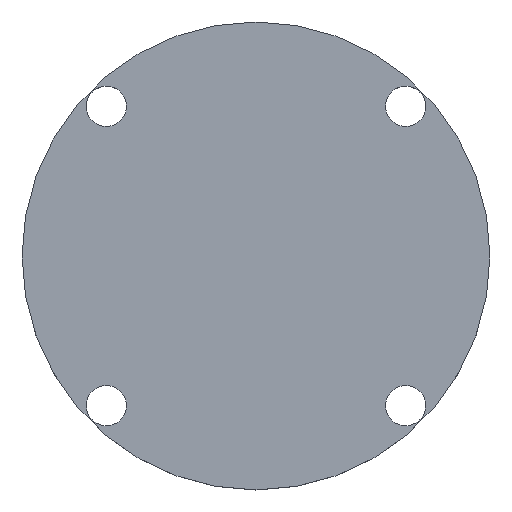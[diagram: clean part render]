
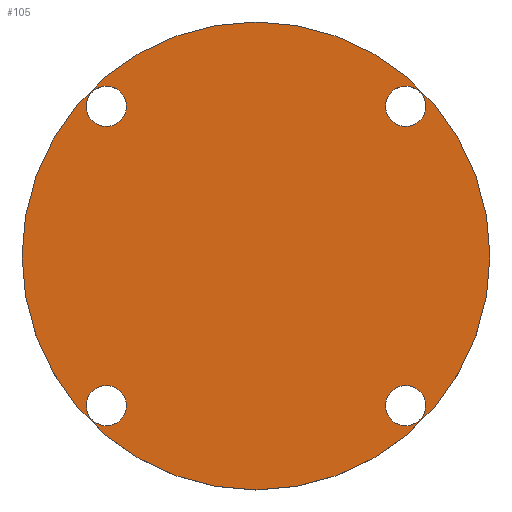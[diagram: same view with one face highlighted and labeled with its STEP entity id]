
A CAD part, top view. The second image highlights one B-rep face of the part: STEP entity #105.
In plain terms, the highlighted planar face has unit normal (0, 0, 1).
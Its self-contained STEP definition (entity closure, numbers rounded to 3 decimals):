
#21 = EDGE_CURVE('',#22,#22,#24,.T.);
#22 = VERTEX_POINT('',#23);
#23 = CARTESIAN_POINT('',(52.5,0.,10.));
#24 = SURFACE_CURVE('',#25,(#30,#42),.PCURVE_S1.);
#25 = CIRCLE('',#26,52.5);
#26 = AXIS2_PLACEMENT_3D('',#27,#28,#29);
#27 = CARTESIAN_POINT('',(0.,0.,10.));
#28 = DIRECTION('',(0.,0.,1.));
#29 = DIRECTION('',(1.,0.,-0.));
#30 = PCURVE('',#31,#36);
#31 = CYLINDRICAL_SURFACE('',#32,52.5);
#32 = AXIS2_PLACEMENT_3D('',#33,#34,#35);
#33 = CARTESIAN_POINT('',(0.,0.,0.));
#34 = DIRECTION('',(0.,0.,1.));
#35 = DIRECTION('',(1.,0.,-0.));
#36 = DEFINITIONAL_REPRESENTATION('',(#37),#41);
#37 = LINE('',#38,#39);
#38 = CARTESIAN_POINT('',(0.,10.));
#39 = VECTOR('',#40,1.);
#40 = DIRECTION('',(1.,0.));
#41 = ( GEOMETRIC_REPRESENTATION_CONTEXT(2) 
PARAMETRIC_REPRESENTATION_CONTEXT() REPRESENTATION_CONTEXT('2D SPACE',''
  ) );
#42 = PCURVE('',#43,#48);
#43 = PLANE('',#44);
#44 = AXIS2_PLACEMENT_3D('',#45,#46,#47);
#45 = CARTESIAN_POINT('',(0.,0.,10.));
#46 = DIRECTION('',(0.,0.,1.));
#47 = DIRECTION('',(1.,0.,-0.));
#48 = DEFINITIONAL_REPRESENTATION('',(#49),#53);
#49 = CIRCLE('',#50,52.5);
#50 = AXIS2_PLACEMENT_2D('',#51,#52);
#51 = CARTESIAN_POINT('',(0.,0.));
#52 = DIRECTION('',(1.,0.));
#53 = ( GEOMETRIC_REPRESENTATION_CONTEXT(2) 
PARAMETRIC_REPRESENTATION_CONTEXT() REPRESENTATION_CONTEXT('2D SPACE',''
  ) );
#105 = ADVANCED_FACE('',(#106,#109,#140,#171,#202),#43,.T.);
#106 = FACE_BOUND('',#107,.T.);
#107 = EDGE_LOOP('',(#108));
#108 = ORIENTED_EDGE('',*,*,#21,.T.);
#109 = FACE_BOUND('',#110,.T.);
#110 = EDGE_LOOP('',(#111));
#111 = ORIENTED_EDGE('',*,*,#112,.F.);
#112 = EDGE_CURVE('',#113,#113,#115,.T.);
#113 = VERTEX_POINT('',#114);
#114 = CARTESIAN_POINT('',(-29.088,-33.588,10.));
#115 = SURFACE_CURVE('',#116,(#121,#128),.PCURVE_S1.);
#116 = CIRCLE('',#117,4.5);
#117 = AXIS2_PLACEMENT_3D('',#118,#119,#120);
#118 = CARTESIAN_POINT('',(-33.588,-33.588,10.));
#119 = DIRECTION('',(0.,0.,1.));
#120 = DIRECTION('',(1.,0.,-0.));
#121 = PCURVE('',#43,#122);
#122 = DEFINITIONAL_REPRESENTATION('',(#123),#127);
#123 = CIRCLE('',#124,4.5);
#124 = AXIS2_PLACEMENT_2D('',#125,#126);
#125 = CARTESIAN_POINT('',(-33.588,-33.588));
#126 = DIRECTION('',(1.,0.));
#127 = ( GEOMETRIC_REPRESENTATION_CONTEXT(2) 
PARAMETRIC_REPRESENTATION_CONTEXT() REPRESENTATION_CONTEXT('2D SPACE',''
  ) );
#128 = PCURVE('',#129,#134);
#129 = CYLINDRICAL_SURFACE('',#130,4.5);
#130 = AXIS2_PLACEMENT_3D('',#131,#132,#133);
#131 = CARTESIAN_POINT('',(-33.588,-33.588,-15.));
#132 = DIRECTION('',(0.,0.,1.));
#133 = DIRECTION('',(1.,0.,-0.));
#134 = DEFINITIONAL_REPRESENTATION('',(#135),#139);
#135 = LINE('',#136,#137);
#136 = CARTESIAN_POINT('',(0.,25.));
#137 = VECTOR('',#138,1.);
#138 = DIRECTION('',(1.,0.));
#139 = ( GEOMETRIC_REPRESENTATION_CONTEXT(2) 
PARAMETRIC_REPRESENTATION_CONTEXT() REPRESENTATION_CONTEXT('2D SPACE',''
  ) );
#140 = FACE_BOUND('',#141,.T.);
#141 = EDGE_LOOP('',(#142));
#142 = ORIENTED_EDGE('',*,*,#143,.F.);
#143 = EDGE_CURVE('',#144,#144,#146,.T.);
#144 = VERTEX_POINT('',#145);
#145 = CARTESIAN_POINT('',(38.088,-33.588,10.));
#146 = SURFACE_CURVE('',#147,(#152,#159),.PCURVE_S1.);
#147 = CIRCLE('',#148,4.5);
#148 = AXIS2_PLACEMENT_3D('',#149,#150,#151);
#149 = CARTESIAN_POINT('',(33.588,-33.588,10.));
#150 = DIRECTION('',(0.,0.,1.));
#151 = DIRECTION('',(1.,0.,-0.));
#152 = PCURVE('',#43,#153);
#153 = DEFINITIONAL_REPRESENTATION('',(#154),#158);
#154 = CIRCLE('',#155,4.5);
#155 = AXIS2_PLACEMENT_2D('',#156,#157);
#156 = CARTESIAN_POINT('',(33.588,-33.588));
#157 = DIRECTION('',(1.,0.));
#158 = ( GEOMETRIC_REPRESENTATION_CONTEXT(2) 
PARAMETRIC_REPRESENTATION_CONTEXT() REPRESENTATION_CONTEXT('2D SPACE',''
  ) );
#159 = PCURVE('',#160,#165);
#160 = CYLINDRICAL_SURFACE('',#161,4.5);
#161 = AXIS2_PLACEMENT_3D('',#162,#163,#164);
#162 = CARTESIAN_POINT('',(33.588,-33.588,-15.));
#163 = DIRECTION('',(0.,0.,1.));
#164 = DIRECTION('',(1.,0.,-0.));
#165 = DEFINITIONAL_REPRESENTATION('',(#166),#170);
#166 = LINE('',#167,#168);
#167 = CARTESIAN_POINT('',(0.,25.));
#168 = VECTOR('',#169,1.);
#169 = DIRECTION('',(1.,0.));
#170 = ( GEOMETRIC_REPRESENTATION_CONTEXT(2) 
PARAMETRIC_REPRESENTATION_CONTEXT() REPRESENTATION_CONTEXT('2D SPACE',''
  ) );
#171 = FACE_BOUND('',#172,.T.);
#172 = EDGE_LOOP('',(#173));
#173 = ORIENTED_EDGE('',*,*,#174,.F.);
#174 = EDGE_CURVE('',#175,#175,#177,.T.);
#175 = VERTEX_POINT('',#176);
#176 = CARTESIAN_POINT('',(-29.088,33.588,10.));
#177 = SURFACE_CURVE('',#178,(#183,#190),.PCURVE_S1.);
#178 = CIRCLE('',#179,4.5);
#179 = AXIS2_PLACEMENT_3D('',#180,#181,#182);
#180 = CARTESIAN_POINT('',(-33.588,33.588,10.));
#181 = DIRECTION('',(0.,0.,1.));
#182 = DIRECTION('',(1.,0.,-0.));
#183 = PCURVE('',#43,#184);
#184 = DEFINITIONAL_REPRESENTATION('',(#185),#189);
#185 = CIRCLE('',#186,4.5);
#186 = AXIS2_PLACEMENT_2D('',#187,#188);
#187 = CARTESIAN_POINT('',(-33.588,33.588));
#188 = DIRECTION('',(1.,0.));
#189 = ( GEOMETRIC_REPRESENTATION_CONTEXT(2) 
PARAMETRIC_REPRESENTATION_CONTEXT() REPRESENTATION_CONTEXT('2D SPACE',''
  ) );
#190 = PCURVE('',#191,#196);
#191 = CYLINDRICAL_SURFACE('',#192,4.5);
#192 = AXIS2_PLACEMENT_3D('',#193,#194,#195);
#193 = CARTESIAN_POINT('',(-33.588,33.588,-15.));
#194 = DIRECTION('',(0.,0.,1.));
#195 = DIRECTION('',(1.,0.,-0.));
#196 = DEFINITIONAL_REPRESENTATION('',(#197),#201);
#197 = LINE('',#198,#199);
#198 = CARTESIAN_POINT('',(0.,25.));
#199 = VECTOR('',#200,1.);
#200 = DIRECTION('',(1.,0.));
#201 = ( GEOMETRIC_REPRESENTATION_CONTEXT(2) 
PARAMETRIC_REPRESENTATION_CONTEXT() REPRESENTATION_CONTEXT('2D SPACE',''
  ) );
#202 = FACE_BOUND('',#203,.T.);
#203 = EDGE_LOOP('',(#204));
#204 = ORIENTED_EDGE('',*,*,#205,.F.);
#205 = EDGE_CURVE('',#206,#206,#208,.T.);
#206 = VERTEX_POINT('',#207);
#207 = CARTESIAN_POINT('',(38.088,33.588,10.));
#208 = SURFACE_CURVE('',#209,(#214,#221),.PCURVE_S1.);
#209 = CIRCLE('',#210,4.5);
#210 = AXIS2_PLACEMENT_3D('',#211,#212,#213);
#211 = CARTESIAN_POINT('',(33.588,33.588,10.));
#212 = DIRECTION('',(0.,0.,1.));
#213 = DIRECTION('',(1.,0.,-0.));
#214 = PCURVE('',#43,#215);
#215 = DEFINITIONAL_REPRESENTATION('',(#216),#220);
#216 = CIRCLE('',#217,4.5);
#217 = AXIS2_PLACEMENT_2D('',#218,#219);
#218 = CARTESIAN_POINT('',(33.588,33.588));
#219 = DIRECTION('',(1.,0.));
#220 = ( GEOMETRIC_REPRESENTATION_CONTEXT(2) 
PARAMETRIC_REPRESENTATION_CONTEXT() REPRESENTATION_CONTEXT('2D SPACE',''
  ) );
#221 = PCURVE('',#222,#227);
#222 = CYLINDRICAL_SURFACE('',#223,4.5);
#223 = AXIS2_PLACEMENT_3D('',#224,#225,#226);
#224 = CARTESIAN_POINT('',(33.588,33.588,-15.));
#225 = DIRECTION('',(0.,0.,1.));
#226 = DIRECTION('',(1.,0.,-0.));
#227 = DEFINITIONAL_REPRESENTATION('',(#228),#232);
#228 = LINE('',#229,#230);
#229 = CARTESIAN_POINT('',(0.,25.));
#230 = VECTOR('',#231,1.);
#231 = DIRECTION('',(1.,0.));
#232 = ( GEOMETRIC_REPRESENTATION_CONTEXT(2) 
PARAMETRIC_REPRESENTATION_CONTEXT() REPRESENTATION_CONTEXT('2D SPACE',''
  ) );
